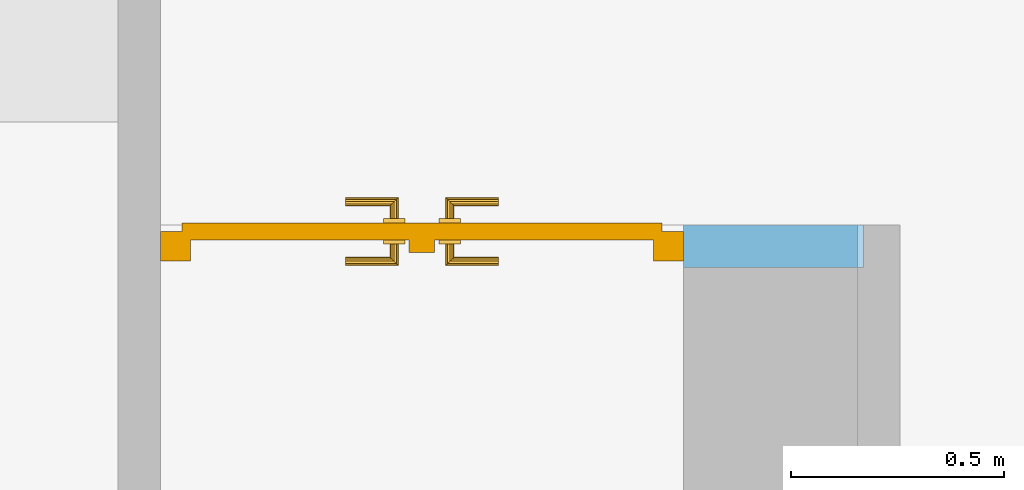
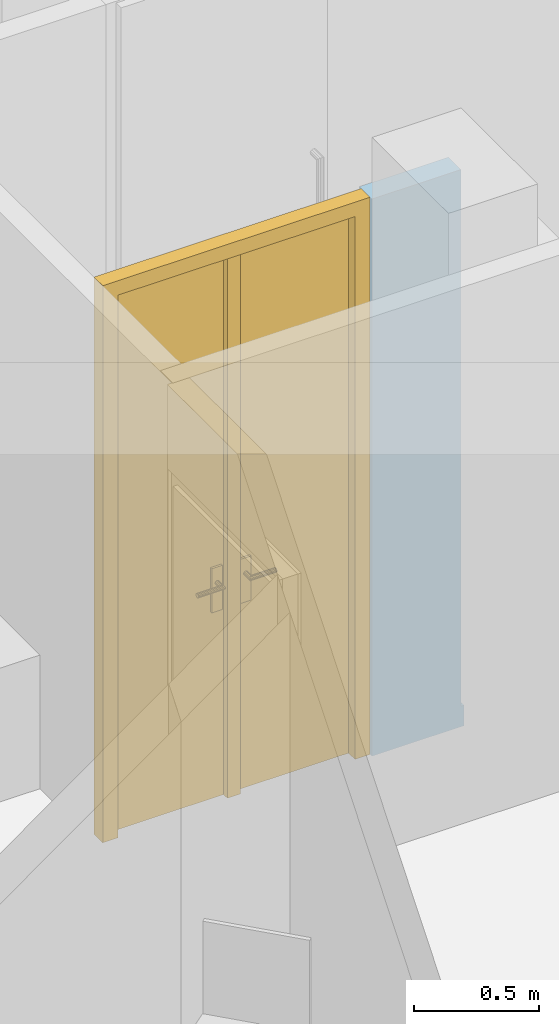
"""IFC4 building model written with IfcOpenShell, lengths in metres."""

from ifc_helpers import new_model, entity, si_unit, converted_unit, derived_unit, frame, frame_2d, origin, origin_with_axes, place, context, subcontext, project, spatial, polyline, rectangle, outline, extrude, clip, bounded_halfspace, faceted_brep, source, transform, mapped, material, layer, layer_set, layer_usage, element, fill, save


model = new_model("IFC4")

# Units and contexts
model_context = context("Model", 3, precision=1e-05, world=origin())
body_context = subcontext(model_context, "Body", "Model", "MODEL_VIEW")
ifc_project = project(units=[si_unit("LENGTHUNIT", "METRE"), si_unit("AREAUNIT", "SQUARE_METRE"), si_unit("VOLUMEUNIT", "CUBIC_METRE"), si_unit("MASSUNIT", "GRAM", prefix="KILO"), converted_unit("PLANEANGLEUNIT", "DEGREE", entity("IfcPlaneAngleMeasure", 0.0174532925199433), si_unit("PLANEANGLEUNIT", "RADIAN"), dimensions=[0, 0, 0, 0, 0, 0, 0]), derived_unit("THERMALTRANSMITTANCEUNIT", [(si_unit("POWERUNIT", "WATT"), 1), (si_unit("THERMODYNAMICTEMPERATUREUNIT", "KELVIN"), -1), (si_unit("LENGTHUNIT", "METRE"), -2)]), derived_unit("VOLUMETRICFLOWRATEUNIT", [(si_unit("LENGTHUNIT", "METRE"), 3), (converted_unit("TIMEUNIT", "hour", entity("IfcTimeMeasure", 3600.0), si_unit("TIMEUNIT", "SECOND"), dimensions=[0, 0, 1, 0, 0, 0, 0]), -1), (si_unit("LENGTHUNIT", "METRE"), -1)])], contexts=[model_context])

# Building, storeys
building_placement = place(None, origin())
building = spatial("IfcBuilding", under=ifc_project, at=building_placement, Name="HABITATGE PLURIFAMILIAR", CompositionType="ELEMENT")
storey_1_placement = place(building_placement, frame((0.0, 0.0, 12.27)))
storey_1 = spatial("IfcBuildingStorey", under=building, at=storey_1_placement, Name="PLANTA TERCERA", CompositionType="ELEMENT", Elevation=12.27)
storey_2_placement = place(storey_1_placement, frame((0.0, 0.0, 9.26)))
storey_2 = spatial("IfcBuildingStorey", under=storey_1, at=storey_2_placement, Name="NOU", CompositionType="PARTIAL")

# Wall, opening, door
ifc_material = material()
ifc_layer = layer(ifc_material, 0.1)
ifc_layer_set = layer_set([ifc_layer])
ifc_layer_usage = layer_usage(ifc_layer_set, "AXIS2", "POSITIVE", 0.0)
wall_placement = place(storey_2_placement, frame((406.090468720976, 24.2294598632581, -9.36), z_axis=(0.0, 0.0, 1.0), x_axis=(-1.0, 0.0, 0.0)))
wall = element("IfcWall", 1, at=wall_placement, inside=storey_2, material=ifc_layer_usage, Name="Evans P3", context=body_context, shape_type="Clipping", body=[
    clip(extrude(rectangle(XDim=1.65348394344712, YDim=0.1, at=frame_2d((0.826741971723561, 0.05), x_axis=(1.0, 0.0))), origin_with_axes(), (0.0, 0.0, 1.0), 2.71), bounded_halfspace(frame((0.00674197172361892, 0.05, 0.1), z_axis=(0.0, 0.0, -1.0), x_axis=(0.0, 1.0, 0.0)), True, origin_with_axes(), polyline([(0.0134839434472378, 0.0), (0.0134839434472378, 0.1), (0.0, 0.1), (0.0, 0.0), (0.0134839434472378, 0.0)]))),
])
opening_placement = place(wall_placement, frame((1.65348394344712, 0.1, 0.0), z_axis=(0.0, -1.0, 0.0), x_axis=(0.0, 0.0, 1.0)))
opening = element("IfcOpeningElement", 2, at=opening_placement, cuts=wall, Name="Vano porta P3", ObjectType="Opening", context=body_context, shape_type="SweptSolid", body=[
    extrude(outline(polyline([(2.71, 1.22999999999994), (2.71, 0.0), (0.0, 0.0), (0.0, 1.22999999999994), (2.71, 1.22999999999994)])), origin_with_axes(), (0.0, 0.0, 1.0), 0.1),
])
shared_shape = source(origin_with_axes(), body_context, "Body", "Brep", [
    faceted_brep([(0.0, 0.07, 2.71), (0.0, 0.07, 0.0), (0.07, 0.07, 0.0), (0.07, 0.07, 2.71), (0.0, 0.0, 0.0), (0.0, 0.0, 2.71), (0.07, 0.0, 2.71), (0.07, 0.0, 0.0)], [[[0, 1, 2, 3]], [[4, 5, 6, 7]], [[1, 0, 5, 4]], [[2, 1, 4, 7]], [[3, 2, 7, 6]], [[0, 3, 6, 5]]], orient=[[False], [False], [False], [False], [False], [False]]),
    faceted_brep([(1.15999999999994, 0.07, 2.71), (1.15999999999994, 0.07, 0.0), (1.22999999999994, 0.07, 0.0), (1.22999999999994, 0.07, 2.71), (1.15999999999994, 0.0, 0.0), (1.15999999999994, 0.0, 2.71), (1.22999999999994, 0.0, 2.71), (1.22999999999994, 0.0, 0.0)], [[[0, 1, 2, 3]], [[4, 5, 6, 7]], [[1, 0, 5, 4]], [[2, 1, 4, 7]], [[3, 2, 7, 6]], [[0, 3, 6, 5]]], orient=[[False], [False], [False], [False], [False], [False]]),
    faceted_brep([(0.07, 0.07, 2.71), (0.07, 0.07, 2.64), (1.15999999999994, 0.07, 2.64), (1.15999999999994, 0.07, 2.71), (0.07, 0.0, 2.64), (0.07, 0.0, 2.71), (1.15999999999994, 0.0, 2.71), (1.15999999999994, 0.0, 2.64)], [[[0, 1, 2, 3]], [[4, 5, 6, 7]], [[1, 0, 5, 4]], [[2, 1, 4, 7]], [[3, 2, 7, 6]], [[0, 3, 6, 5]]], orient=[[False], [False], [False], [False], [False], [False]]),
    faceted_brep([(0.05, 0.09, 2.66), (0.05, 0.09, 0.0), (0.614499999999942, 0.09, 0.0), (0.614499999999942, 0.09, 2.66), (0.05, 0.05, 0.0), (0.05, 0.05, 2.66), (0.614499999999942, 0.05, 2.66), (0.614499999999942, 0.05, 0.0)], [[[0, 1, 2, 3]], [[4, 5, 6, 7]], [[1, 0, 5, 4]], [[2, 1, 4, 7]], [[3, 2, 7, 6]], [[0, 3, 6, 5]]], orient=[[False], [False], [False], [False], [False], [False]]),
    faceted_brep([(0.5845, 0.05, 2.64), (0.5845, 0.05, 0.0), (0.644499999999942, 0.05, 0.0), (0.644499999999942, 0.05, 2.64), (0.5845, 0.02, 0.0), (0.5845, 0.02, 2.64), (0.644499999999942, 0.02, 2.64), (0.644499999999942, 0.02, 0.0)], [[[0, 1, 2, 3]], [[4, 5, 6, 7]], [[1, 0, 5, 4]], [[2, 1, 4, 7]], [[3, 2, 7, 6]], [[0, 3, 6, 5]]], orient=[[False], [False], [False], [False], [False], [False]]),
    faceted_brep([(0.5245, 0.05, 1.125), (0.5245, 0.05, 0.91), (0.5745, 0.05, 0.91), (0.5745, 0.05, 1.125), (0.5245, 0.04, 0.91), (0.5245, 0.04, 1.125), (0.5745, 0.04, 1.125), (0.5745, 0.04, 0.91)], [[[0, 1, 2, 3]], [[4, 5, 6, 7]], [[1, 0, 5, 4]], [[2, 1, 4, 7]], [[3, 2, 7, 6]], [[0, 3, 6, 5]]], orient=[[False], [False], [False], [False], [False], [False]]),
    faceted_brep([(0.5495, 0.04, 1.06), (0.5445, 0.04, 1.05866025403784), (0.540839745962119, 0.04, 1.055), (0.5395, 0.04, 1.05), (0.540839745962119, 0.04, 1.045), (0.5445, 0.04, 1.04133974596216), (0.5495, 0.04, 1.04), (0.5545, 0.04, 1.04133974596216), (0.558160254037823, 0.04, 1.045), (0.5595, 0.04, 1.05), (0.558160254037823, 0.04, 1.055), (0.5545, 0.04, 1.05866025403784), (0.5545, -0.005, 1.05866025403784), (0.5495, 0.0, 1.06), (0.558160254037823, -0.00866025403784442, 1.055), (0.5595, -0.01, 1.05), (0.558160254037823, -0.00866025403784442, 1.045), (0.5545, -0.005, 1.04133974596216), (0.5495, 0.0, 1.04), (0.5445, 0.005, 1.04133974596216), (0.540839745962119, 0.00866025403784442, 1.045), (0.5395, 0.01, 1.05), (0.540839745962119, 0.00866025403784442, 1.055), (0.5445, 0.005, 1.05866025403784), (0.4345, 0.0, 1.06), (0.4345, -0.005, 1.05866025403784), (0.4345, -0.00866025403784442, 1.055), (0.4345, -0.01, 1.05), (0.4345, -0.00866025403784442, 1.045), (0.4345, -0.005, 1.04133974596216), (0.4345, 0.0, 1.04), (0.4345, 0.005, 1.04133974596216), (0.4345, 0.00866025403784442, 1.045), (0.4345, 0.01, 1.05), (0.4345, 0.00866025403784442, 1.055), (0.4345, 0.005, 1.05866025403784)], [[[0, 1, 2, 3, 4, 5, 6, 7, 8, 9, 10, 11]], [[0, 11, 12, 13]], [[11, 10, 14, 12]], [[10, 9, 15, 14]], [[9, 8, 16, 15]], [[8, 7, 17, 16]], [[7, 6, 18, 17]], [[6, 5, 19, 18]], [[5, 4, 20, 19]], [[4, 3, 21, 20]], [[3, 2, 22, 21]], [[2, 1, 23, 22]], [[1, 0, 13, 23]], [[24, 25, 26, 27, 28, 29, 30, 31, 32, 33, 34, 35]], [[13, 12, 25, 24]], [[12, 14, 26, 25]], [[14, 15, 27, 26]], [[15, 16, 28, 27]], [[16, 17, 29, 28]], [[17, 18, 30, 29]], [[18, 19, 31, 30]], [[19, 20, 32, 31]], [[20, 21, 33, 32]], [[21, 22, 34, 33]], [[22, 23, 35, 34]], [[23, 13, 24, 35]]], orient=[[False], [False], [False], [False], [False], [False], [False], [False], [False], [False], [False], [False], [False], [False], [False], [False], [False], [False], [False], [False], [False], [False], [False], [False], [False], [False]]),
    faceted_brep([(0.5245, 0.09, 1.125), (0.5745, 0.09, 1.125), (0.5745, 0.09, 0.91), (0.5245, 0.09, 0.91), (0.5245, 0.1, 0.91), (0.5745, 0.1, 0.91), (0.5745, 0.1, 1.125), (0.5245, 0.1, 1.125)], [[[0, 1, 2, 3]], [[4, 5, 6, 7]], [[3, 4, 7, 0]], [[2, 5, 4, 3]], [[1, 6, 5, 2]], [[0, 7, 6, 1]]], orient=[[False], [False], [False], [False], [False], [False]]),
    faceted_brep([(0.5495, 0.1, 1.06), (0.5545, 0.1, 1.05866025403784), (0.558160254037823, 0.1, 1.055), (0.5595, 0.1, 1.05), (0.558160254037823, 0.1, 1.045), (0.5545, 0.1, 1.04133974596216), (0.5495, 0.1, 1.04), (0.5445, 0.1, 1.04133974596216), (0.540839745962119, 0.1, 1.045), (0.5395, 0.1, 1.05), (0.540839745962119, 0.1, 1.055), (0.5445, 0.1, 1.05866025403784), (0.5495, 0.14, 1.06), (0.5545, 0.145, 1.05866025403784), (0.558160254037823, 0.148660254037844, 1.055), (0.5595, 0.15, 1.05), (0.558160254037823, 0.148660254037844, 1.045), (0.5545, 0.145, 1.04133974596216), (0.5495, 0.14, 1.04), (0.5445, 0.135, 1.04133974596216), (0.540839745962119, 0.131339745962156, 1.045), (0.5395, 0.13, 1.05), (0.540839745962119, 0.131339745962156, 1.055), (0.5445, 0.135, 1.05866025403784), (0.4345, 0.14, 1.06), (0.4345, 0.135, 1.05866025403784), (0.4345, 0.131339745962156, 1.055), (0.4345, 0.13, 1.05), (0.4345, 0.131339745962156, 1.045), (0.4345, 0.135, 1.04133974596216), (0.4345, 0.14, 1.04), (0.4345, 0.145, 1.04133974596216), (0.4345, 0.148660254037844, 1.045), (0.4345, 0.15, 1.05), (0.4345, 0.148660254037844, 1.055), (0.4345, 0.145, 1.05866025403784)], [[[0, 1, 2, 3, 4, 5, 6, 7, 8, 9, 10, 11]], [[0, 12, 13, 1]], [[1, 13, 14, 2]], [[2, 14, 15, 3]], [[3, 15, 16, 4]], [[4, 16, 17, 5]], [[5, 17, 18, 6]], [[6, 18, 19, 7]], [[7, 19, 20, 8]], [[8, 20, 21, 9]], [[9, 21, 22, 10]], [[10, 22, 23, 11]], [[11, 23, 12, 0]], [[24, 25, 26, 27, 28, 29, 30, 31, 32, 33, 34, 35]], [[12, 24, 35, 13]], [[13, 35, 34, 14]], [[14, 34, 33, 15]], [[15, 33, 32, 16]], [[16, 32, 31, 17]], [[17, 31, 30, 18]], [[18, 30, 29, 19]], [[19, 29, 28, 20]], [[20, 28, 27, 21]], [[21, 27, 26, 22]], [[22, 26, 25, 23]], [[23, 25, 24, 12]]], orient=[[False], [False], [False], [False], [False], [False], [False], [False], [False], [False], [False], [False], [False], [False], [False], [False], [False], [False], [False], [False], [False], [False], [False], [False], [False], [False]]),
    faceted_brep([(0.615499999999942, 0.09, 2.66), (0.615499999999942, 0.09, 0.0), (1.17999999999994, 0.09, 0.0), (1.17999999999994, 0.09, 2.66), (0.615499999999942, 0.05, 0.0), (0.615499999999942, 0.05, 2.66), (1.17999999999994, 0.05, 2.66), (1.17999999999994, 0.05, 0.0)], [[[0, 1, 2, 3]], [[4, 5, 6, 7]], [[1, 0, 5, 4]], [[2, 1, 4, 7]], [[3, 2, 7, 6]], [[0, 3, 6, 5]]], orient=[[False], [False], [False], [False], [False], [False]]),
    faceted_brep([(0.655499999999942, 0.05, 1.125), (0.655499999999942, 0.05, 0.91), (0.705499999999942, 0.05, 0.91), (0.705499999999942, 0.05, 1.125), (0.655499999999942, 0.04, 0.91), (0.655499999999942, 0.04, 1.125), (0.705499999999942, 0.04, 1.125), (0.705499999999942, 0.04, 0.91)], [[[0, 1, 2, 3]], [[4, 5, 6, 7]], [[1, 0, 5, 4]], [[2, 1, 4, 7]], [[3, 2, 7, 6]], [[0, 3, 6, 5]]], orient=[[False], [False], [False], [False], [False], [False]]),
    faceted_brep([(0.680499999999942, 0.04, 1.06), (0.675499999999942, 0.04, 1.05866025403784), (0.671839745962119, 0.04, 1.055), (0.670499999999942, 0.04, 1.05), (0.671839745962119, 0.04, 1.045), (0.675499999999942, 0.04, 1.04133974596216), (0.680499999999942, 0.04, 1.04), (0.685499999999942, 0.04, 1.04133974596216), (0.689160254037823, 0.04, 1.045), (0.690499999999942, 0.04, 1.05), (0.689160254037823, 0.04, 1.055), (0.685499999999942, 0.04, 1.05866025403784), (0.680499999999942, 0.0, 1.06), (0.675499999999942, -0.005, 1.05866025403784), (0.671839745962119, -0.00866025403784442, 1.055), (0.670499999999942, -0.01, 1.05), (0.671839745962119, -0.00866025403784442, 1.045), (0.675499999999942, -0.005, 1.04133974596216), (0.680499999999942, 0.0, 1.04), (0.685499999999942, 0.005, 1.04133974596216), (0.689160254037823, 0.00866025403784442, 1.045), (0.690499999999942, 0.01, 1.05), (0.689160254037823, 0.00866025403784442, 1.055), (0.685499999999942, 0.005, 1.05866025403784), (0.795499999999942, 0.0, 1.06), (0.795499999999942, 0.005, 1.05866025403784), (0.795499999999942, 0.00866025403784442, 1.055), (0.795499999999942, 0.01, 1.05), (0.795499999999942, 0.00866025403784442, 1.045), (0.795499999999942, 0.005, 1.04133974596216), (0.795499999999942, 0.0, 1.04), (0.795499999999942, -0.005, 1.04133974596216), (0.795499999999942, -0.00866025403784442, 1.045), (0.795499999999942, -0.01, 1.05), (0.795499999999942, -0.00866025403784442, 1.055), (0.795499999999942, -0.005, 1.05866025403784)], [[[0, 1, 2, 3, 4, 5, 6, 7, 8, 9, 10, 11]], [[0, 12, 13, 1]], [[1, 13, 14, 2]], [[2, 14, 15, 3]], [[3, 15, 16, 4]], [[4, 16, 17, 5]], [[5, 17, 18, 6]], [[6, 18, 19, 7]], [[7, 19, 20, 8]], [[8, 20, 21, 9]], [[9, 21, 22, 10]], [[10, 22, 23, 11]], [[11, 23, 12, 0]], [[24, 25, 26, 27, 28, 29, 30, 31, 32, 33, 34, 35]], [[12, 24, 35, 13]], [[13, 35, 34, 14]], [[14, 34, 33, 15]], [[15, 33, 32, 16]], [[16, 32, 31, 17]], [[17, 31, 30, 18]], [[18, 30, 29, 19]], [[19, 29, 28, 20]], [[20, 28, 27, 21]], [[21, 27, 26, 22]], [[22, 26, 25, 23]], [[23, 25, 24, 12]]], orient=[[False], [False], [False], [False], [False], [False], [False], [False], [False], [False], [False], [False], [False], [False], [False], [False], [False], [False], [False], [False], [False], [False], [False], [False], [False], [False]]),
    faceted_brep([(0.655499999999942, 0.09, 1.125), (0.705499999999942, 0.09, 1.125), (0.705499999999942, 0.09, 0.91), (0.655499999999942, 0.09, 0.91), (0.655499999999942, 0.1, 0.91), (0.705499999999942, 0.1, 0.91), (0.705499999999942, 0.1, 1.125), (0.655499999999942, 0.1, 1.125)], [[[0, 1, 2, 3]], [[4, 5, 6, 7]], [[3, 4, 7, 0]], [[2, 5, 4, 3]], [[1, 6, 5, 2]], [[0, 7, 6, 1]]], orient=[[False], [False], [False], [False], [False], [False]]),
    faceted_brep([(0.680499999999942, 0.1, 1.06), (0.685499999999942, 0.1, 1.05866025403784), (0.689160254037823, 0.1, 1.055), (0.690499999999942, 0.1, 1.05), (0.689160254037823, 0.1, 1.045), (0.685499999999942, 0.1, 1.04133974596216), (0.680499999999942, 0.1, 1.04), (0.675499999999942, 0.1, 1.04133974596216), (0.671839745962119, 0.1, 1.045), (0.670499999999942, 0.1, 1.05), (0.671839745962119, 0.1, 1.055), (0.675499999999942, 0.1, 1.05866025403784), (0.675499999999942, 0.145, 1.05866025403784), (0.680499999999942, 0.14, 1.06), (0.671839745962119, 0.148660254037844, 1.055), (0.670499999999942, 0.15, 1.05), (0.671839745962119, 0.148660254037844, 1.045), (0.675499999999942, 0.145, 1.04133974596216), (0.680499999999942, 0.14, 1.04), (0.685499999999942, 0.135, 1.04133974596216), (0.689160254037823, 0.131339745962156, 1.045), (0.690499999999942, 0.13, 1.05), (0.689160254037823, 0.131339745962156, 1.055), (0.685499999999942, 0.135, 1.05866025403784), (0.795499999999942, 0.14, 1.06), (0.795499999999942, 0.145, 1.05866025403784), (0.795499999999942, 0.148660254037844, 1.055), (0.795499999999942, 0.15, 1.05), (0.795499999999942, 0.148660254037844, 1.045), (0.795499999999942, 0.145, 1.04133974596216), (0.795499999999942, 0.14, 1.04), (0.795499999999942, 0.135, 1.04133974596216), (0.795499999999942, 0.131339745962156, 1.045), (0.795499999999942, 0.13, 1.05), (0.795499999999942, 0.131339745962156, 1.055), (0.795499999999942, 0.135, 1.05866025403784)], [[[0, 1, 2, 3, 4, 5, 6, 7, 8, 9, 10, 11]], [[0, 11, 12, 13]], [[11, 10, 14, 12]], [[10, 9, 15, 14]], [[9, 8, 16, 15]], [[8, 7, 17, 16]], [[7, 6, 18, 17]], [[6, 5, 19, 18]], [[5, 4, 20, 19]], [[4, 3, 21, 20]], [[3, 2, 22, 21]], [[2, 1, 23, 22]], [[1, 0, 13, 23]], [[24, 25, 26, 27, 28, 29, 30, 31, 32, 33, 34, 35]], [[13, 12, 25, 24]], [[12, 14, 26, 25]], [[14, 15, 27, 26]], [[15, 16, 28, 27]], [[16, 17, 29, 28]], [[17, 18, 30, 29]], [[18, 19, 31, 30]], [[19, 20, 32, 31]], [[20, 21, 33, 32]], [[21, 22, 34, 33]], [[22, 23, 35, 34]], [[23, 13, 24, 35]]], orient=[[False], [False], [False], [False], [False], [False], [False], [False], [False], [False], [False], [False], [False], [False], [False], [False], [False], [False], [False], [False], [False], [False], [False], [False], [False], [False]]),
])
door_placement = place(opening_placement, frame((0.0, 0.0, 0.015), z_axis=(1.0, 0.0, 0.0), x_axis=(0.0, 1.0, 0.0)))
door = element("IfcDoor", 3, at=door_placement, inside=storey_2, Name="Porta P3", OperationType="USERDEFINED", OverallHeight=2.71, OverallWidth=1.23, PredefinedType="DOOR", context=body_context, shape_type="MappedRepresentation", body=[
    mapped(shared_shape, transform((0.0, 0.0, 0.0), x_axis=(1.0, 0.0, 0.0), y_axis=(0.0, 1.0, 0.0), z_axis=(0.0, 0.0, 1.0), scale=1.0)),
])
fill(opening, door)

save(model, "model.ifc")
